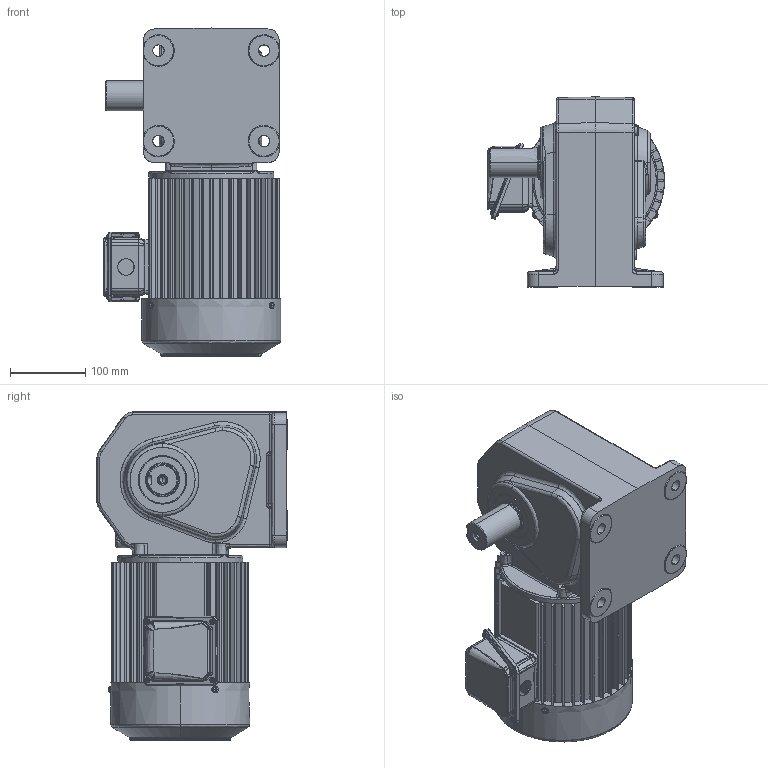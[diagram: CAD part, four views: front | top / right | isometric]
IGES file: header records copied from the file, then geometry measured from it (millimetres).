
Start section: SolidWorks IGES file using analytic representation for surfaces
Global section: file name: \\100.100.100.8\1_共有作業フォルダ\1-5_３Ｄデータ\solidworks\personal-folder\H.Nagayama\HL外形\HL(3D)\igs\TMHL-15-(5~60)A.IGS; native system: SolidWorks 2018; preprocessor: SolidWorks 2018; author: sigma-giken; date: 200326.115643; units: millimetre
Bounding box: 235 x 252 x 435 mm (x, y, z)
Surface area: 750263.4 mm2 (no closed solid volume)
Topology: 0 solids, 0 shells, 2412 faces, 27282 edges, 27222 vertices
Faces by surface type: bspline 1226, revolution 1186
